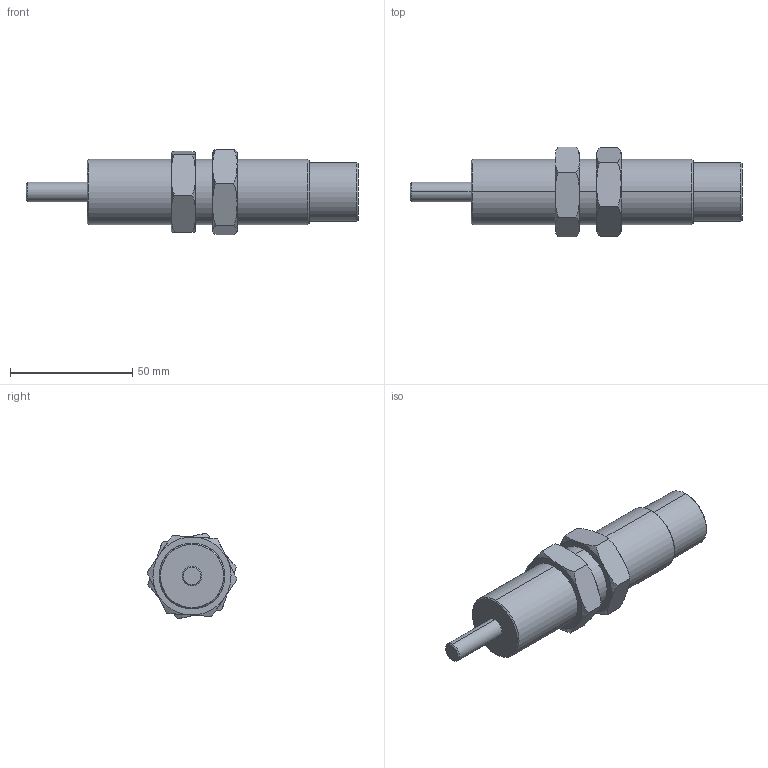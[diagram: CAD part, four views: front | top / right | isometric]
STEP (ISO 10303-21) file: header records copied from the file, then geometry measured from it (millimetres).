
FILE_DESCRIPTION (( 'STEP AP203' ), '1' );
FILE_NAME ('FSA-2725BB(CC)(CD).STEP', '2016-03-17T07:47:34', ( 'Sam Lin' ), ( '' ), 'SwSTEP 2.0', 'SolidWorks 2013', '' );
FILE_SCHEMA (( 'CONFIG_CONTROL_DESIGN' ));
Length unit declared in the file: metre
Products named in the file (3): FSA-2725BB(CC)(CD)_1; M27x1.5-10mm_1; FSA-2725BB(CC)(CD)
Assembly tree (3 placements, depth 2):
  FSA-2725BB(CC)(CD)
    FSA-2725BB(CC)(CD)_1
    M27x1.5-10mm_1  x2
Bounding box: 136 x 36.86 x 35.04 mm (x, y, z)
Volume: 68559.8 mm3; surface area: 15955.9 mm2
Topology: 3 solids, 3 shells, 62 faces, 132 edges, 78 vertices
Faces by surface type: bspline 24, plane 20, cylinder 10, cone 8
Entity records: 1715 total; most frequent: CARTESIAN_POINT 636, ORIENTED_EDGE 168, DIRECTION 142, EDGE_CURVE 84, AXIS2_PLACEMENT_3D 60, VERTEX_POINT 50, EDGE_LOOP 44, ADVANCED_FACE 40
